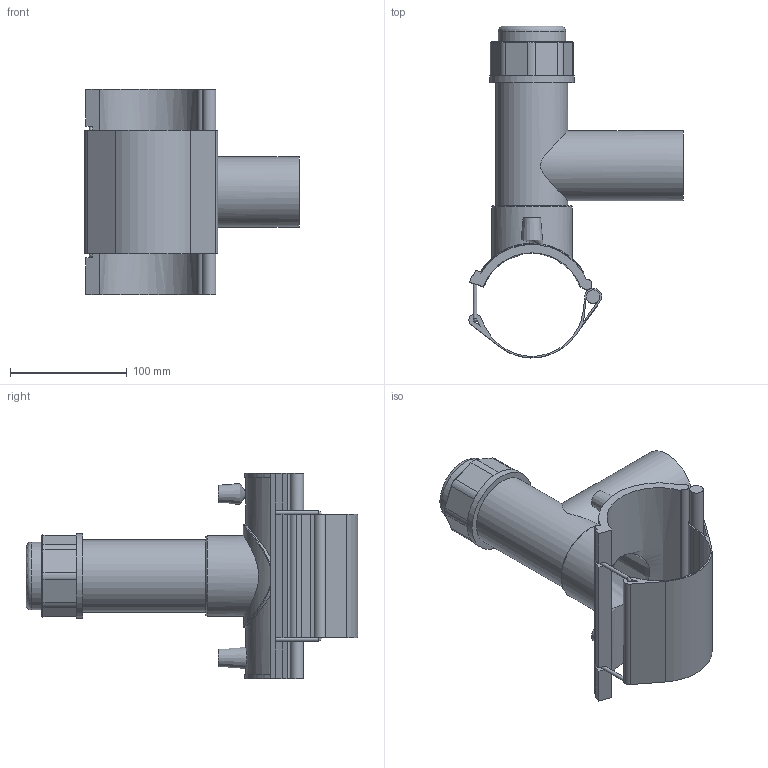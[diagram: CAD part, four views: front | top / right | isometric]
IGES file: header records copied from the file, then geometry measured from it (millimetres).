
Global section: file name: 5913BB03030020.ipt; native system: Autodesk Inventor 2019; preprocessor: unknown; author: KIM; date: 20210830.101034; units: millimetre
Bounding box: 183.88 x 284.84 x 176.02 mm (x, y, z)
Volume: 644814.6 mm3; surface area: 199328.4 mm2
Topology: 2 solids, 2 shells, 124 faces, 320 edges, 199 vertices
Faces by surface type: plane 69, cylinder 29, revolution 12, cone 11, bspline 3
Full cylindrical faces by diameter (mm): 3.193 x2, 4 x2, 11.531 x1, 58.187 x1, 60.1 x1, 61.824 x1, 69.097 x1, 72.734 x1, 88.7 x1
